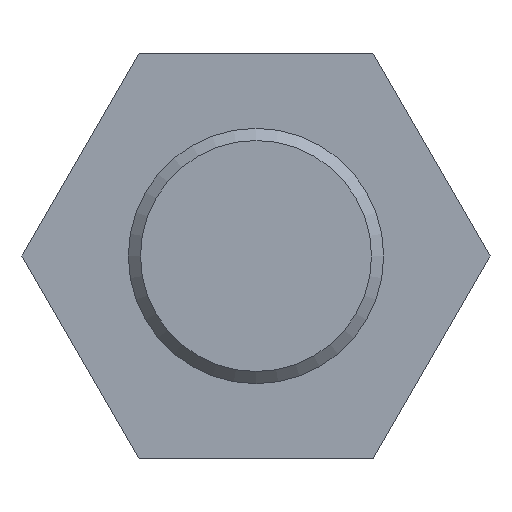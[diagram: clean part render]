
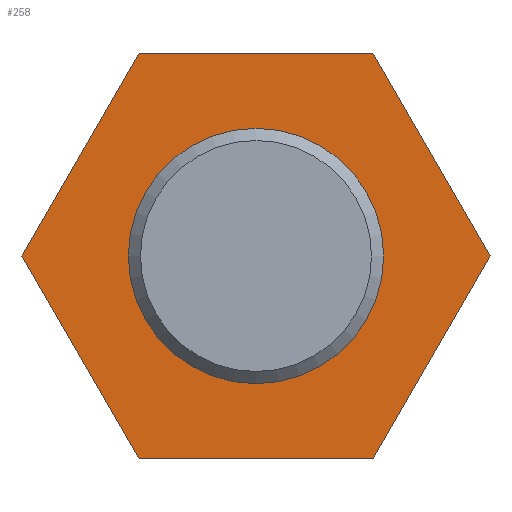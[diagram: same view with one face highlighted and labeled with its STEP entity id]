
A CAD part, left-side view. The second image highlights one B-rep face of the part: STEP entity #258.
In plain terms, the highlighted planar face has unit normal (-1, 0, 0).
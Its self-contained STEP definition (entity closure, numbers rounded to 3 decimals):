
#192=CARTESIAN_POINT('',(17.,0.,0.));
#193=DIRECTION('',(1.0,0.0,0.0));
#194=DIRECTION('',(0.0,0.0,-1.0));
#195=AXIS2_PLACEMENT_3D('',#192,#193,#194);
#196=PLANE('',#195);
#197=CARTESIAN_POINT('',(17.0,2.887,-5.));
#198=VERTEX_POINT('',#197);
#199=CARTESIAN_POINT('',(17.0,-2.887,-5.));
#200=VERTEX_POINT('',#199);
#201=CARTESIAN_POINT('',(17.0,2.887,-5.));
#202=DIRECTION('',(0.0,-1.0,0.0));
#203=VECTOR('',#202,5.774);
#204=LINE('',#201,#203);
#205=EDGE_CURVE('',#198,#200,#204,.T.);
#206=ORIENTED_EDGE('',*,*,#205,.T.);
#207=CARTESIAN_POINT('',(17.0,-5.774,0.));
#208=VERTEX_POINT('',#207);
#209=CARTESIAN_POINT('',(17.0,-2.887,-5.));
#210=DIRECTION('',(0.0,-0.5,0.866));
#211=VECTOR('',#210,5.774);
#212=LINE('',#209,#211);
#213=EDGE_CURVE('',#200,#208,#212,.T.);
#214=ORIENTED_EDGE('',*,*,#213,.T.);
#215=CARTESIAN_POINT('',(17.0,-2.887,5.0));
#216=VERTEX_POINT('',#215);
#217=CARTESIAN_POINT('',(17.0,-5.774,0.));
#218=DIRECTION('',(0.0,0.5,0.866));
#219=VECTOR('',#218,5.774);
#220=LINE('',#217,#219);
#221=EDGE_CURVE('',#208,#216,#220,.T.);
#222=ORIENTED_EDGE('',*,*,#221,.T.);
#223=CARTESIAN_POINT('',(17.0,2.887,5.0));
#224=VERTEX_POINT('',#223);
#225=CARTESIAN_POINT('',(17.0,-2.887,5.0));
#226=DIRECTION('',(0.0,1.0,0.0));
#227=VECTOR('',#226,5.774);
#228=LINE('',#225,#227);
#229=EDGE_CURVE('',#216,#224,#228,.T.);
#230=ORIENTED_EDGE('',*,*,#229,.T.);
#231=CARTESIAN_POINT('',(17.0,5.774,0.));
#232=VERTEX_POINT('',#231);
#233=CARTESIAN_POINT('',(17.0,2.887,5.0));
#234=DIRECTION('',(0.0,0.5,-0.866));
#235=VECTOR('',#234,5.774);
#236=LINE('',#233,#235);
#237=EDGE_CURVE('',#224,#232,#236,.T.);
#238=ORIENTED_EDGE('',*,*,#237,.T.);
#239=CARTESIAN_POINT('',(17.0,5.774,0.));
#240=DIRECTION('',(0.0,-0.5,-0.866));
#241=VECTOR('',#240,5.774);
#242=LINE('',#239,#241);
#243=EDGE_CURVE('',#232,#198,#242,.T.);
#244=ORIENTED_EDGE('',*,*,#243,.T.);
#245=EDGE_LOOP('',(#206,#214,#222,#230,#238,#244));
#246=FACE_OUTER_BOUND('',#245,.T.);
#247=CARTESIAN_POINT('',(17.0,3.15,0.0));
#248=VERTEX_POINT('',#247);
#249=CARTESIAN_POINT('',(17.0,0.0,0.0));
#250=DIRECTION('',(1.0,0.0,0.0));
#251=DIRECTION('',(0.0,1.0,0.0));
#252=AXIS2_PLACEMENT_3D('',#249,#250,#251);
#253=CIRCLE('',#252,3.15);
#254=EDGE_CURVE('',#248,#248,#253,.T.);
#255=ORIENTED_EDGE('',*,*,#254,.T.);
#256=EDGE_LOOP('',(#255));
#257=FACE_BOUND('',#256,.T.);
#258=ADVANCED_FACE('',(#246,#257),#196,.F.);
